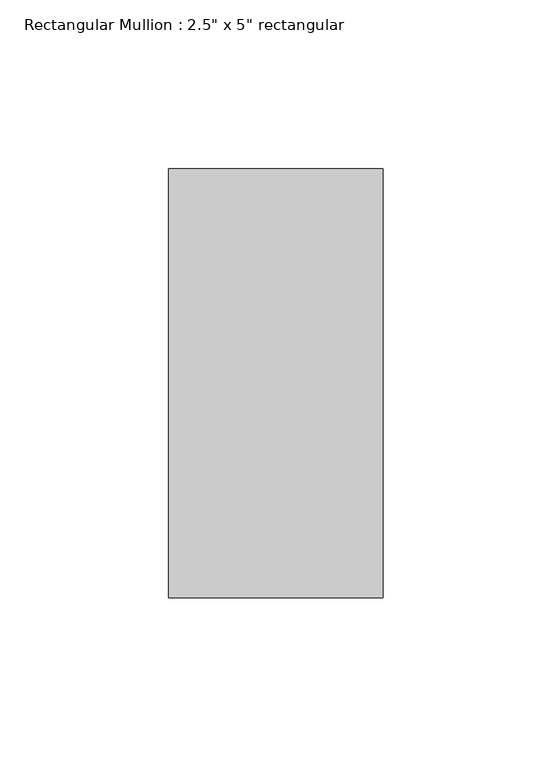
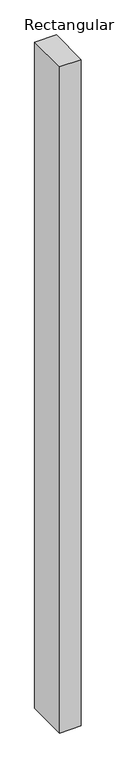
"""IFC4 building model written with IfcOpenShell, lengths in millimetres: member geometry."""

from ifc_helpers import new_model, si_unit, frame, origin, place, context, project, spatial, polyline, outline, extrude, source, transform, mapped, element, save


def member_4f1c84db(model_context):
    return source(origin(), model_context, "Body", "SweptSolid", [
        extrude(outline(polyline([(31.75, 63.5), (31.75, -63.5), (-31.75, -63.5), (-31.75, 63.5), (31.75, 63.5)])), frame((0.0, 0.0, -2070.1), z_axis=(0.0, 0.0, 1.0), x_axis=(1.0, 0.0, 0.0)), (0.0, 0.0, 1.0), 2070.1),
    ])


if __name__ == "__main__":
    model = new_model("IFC4")
    model_context = context("Model", 3, world=origin())
    ifc_project = project(units=[si_unit("LENGTHUNIT", "METRE", prefix="MILLI")], contexts=[model_context])
    site = spatial("IfcSite", under=ifc_project)
    building = spatial("IfcBuilding", under=site)
    placement = place(None, origin())
    member_shape = member_4f1c84db(model_context)
    element("IfcMember", 1, ObjectType="Rectangular Mullion : 2.5\" x 5\" rectangular", at=placement, inside=building, context=model_context, shape_type="MappedRepresentation", body=[
        mapped(member_shape, transform((0.0, 0.0, 0.0), x_axis=(1.0, 0.0, 0.0), y_axis=(0.0, 1.0, 0.0), z_axis=(0.0, 0.0, 1.0))),
    ])
    save(model, "model.ifc")
